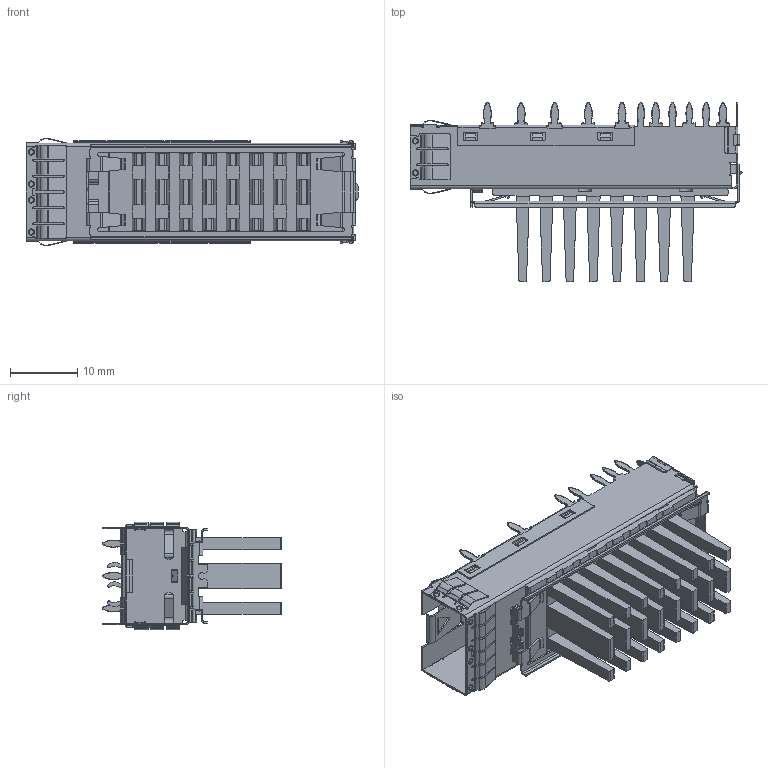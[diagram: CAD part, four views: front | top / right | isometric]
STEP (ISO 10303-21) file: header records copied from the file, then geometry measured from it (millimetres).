
FILE_DESCRIPTION (( 'STEP AP214' ), '1' );
FILE_NAME ('SS10-1103110000-0000-X.STEP', '2021-03-25T03:37:26', ( '' ), ( '' ), 'SwSTEP 2.0', 'SolidWorks 2012', '' );
FILE_SCHEMA (( 'AUTOMOTIVE_DESIGN' ));
Length unit declared in the file: inch
Products named in the file (1): SS10-1103110000-0000-X
Bounding box: 49.33 x 26.65 x 16 mm (x, y, z)
Volume: 2478 mm3; surface area: 8940.1 mm2
Topology: 8 solids, 8 shells, 2087 faces, 5602 edges, 3522 vertices
Faces by surface type: plane 1172, cylinder 775, bspline 92, sphere 24, torus 24
Entity records: 98157 total; most frequent: CARTESIAN_POINT 19277, ORIENTED_EDGE 11108, DIRECTION 10424, EDGE_CURVE 5554, VECTOR 3616, LINE 3616, VERTEX_POINT 3498, AXIS2_PLACEMENT_3D 3404
